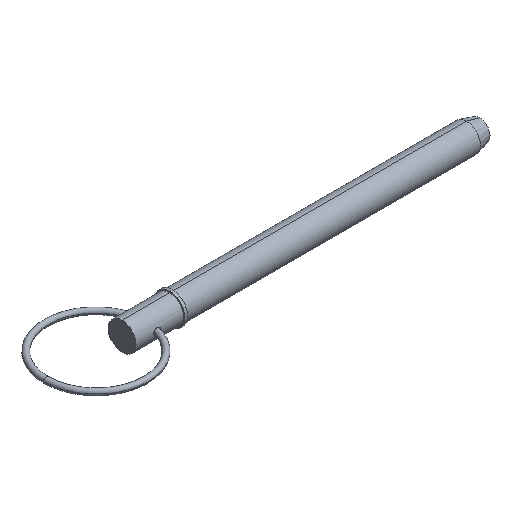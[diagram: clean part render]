
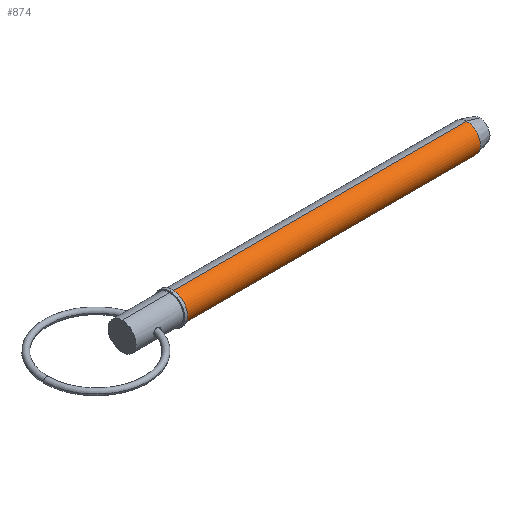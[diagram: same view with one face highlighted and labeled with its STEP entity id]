
A CAD part, isometric view. The second image highlights one B-rep face of the part: STEP entity #874.
In plain terms, the highlighted cylindrical face has radius 7.145 mm (diameter 14.29 mm), a partial arc.
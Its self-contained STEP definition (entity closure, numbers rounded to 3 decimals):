
#50 = DIRECTION ( 'NONE',  ( 1., 0., 0. ) ) ;
#53 = DIRECTION ( 'NONE',  ( 0., 0., -1. ) ) ;
#89 = VERTEX_POINT ( 'NONE', #544 ) ;
#100 = ORIENTED_EDGE ( 'NONE', *, *, #589, .T. ) ;
#150 = FACE_OUTER_BOUND ( 'NONE', #360, .T. ) ;
#198 = EDGE_CURVE ( 'NONE', #835, #432, #856, .T. ) ;
#243 = CYLINDRICAL_SURFACE ( 'NONE', #364, 7.145 ) ;
#277 = VERTEX_POINT ( 'NONE', #806 ) ;
#295 = CIRCLE ( 'NONE', #714, 7.145 ) ;
#342 = ORIENTED_EDGE ( 'NONE', *, *, #479, .F. ) ;
#360 = EDGE_LOOP ( 'NONE', ( #898, #667, #100, #342 ) ) ;
#364 = AXIS2_PLACEMENT_3D ( 'NONE', #796, #494, #484 ) ;
#413 = VECTOR ( 'NONE', #930, 1000. ) ;
#428 = AXIS2_PLACEMENT_3D ( 'NONE', #722, #704, #858 ) ;
#432 = VERTEX_POINT ( 'NONE', #842 ) ;
#457 = LINE ( 'NONE', #611, #413 ) ;
#479 = EDGE_CURVE ( 'NONE', #89, #277, #295, .T. ) ;
#484 = DIRECTION ( 'NONE',  ( 0., 0., -1. ) ) ;
#494 = DIRECTION ( 'NONE',  ( 1., 0., 0. ) ) ;
#544 = CARTESIAN_POINT ( 'NONE',  ( 176.184, 0., 7.145 ) ) ;
#562 = LINE ( 'NONE', #1045, #788 ) ;
#589 = EDGE_CURVE ( 'NONE', #432, #277, #457, .T. ) ;
#611 = CARTESIAN_POINT ( 'NONE',  ( 0., 0., -7.145 ) ) ;
#667 = ORIENTED_EDGE ( 'NONE', *, *, #198, .T. ) ;
#699 = CARTESIAN_POINT ( 'NONE',  ( 176.184, 0., 0. ) ) ;
#704 = DIRECTION ( 'NONE',  ( 1., 0., 0. ) ) ;
#714 = AXIS2_PLACEMENT_3D ( 'NONE', #699, #50, #53 ) ;
#722 = CARTESIAN_POINT ( 'NONE',  ( 25.7, 0., 0. ) ) ;
#736 = EDGE_CURVE ( 'NONE', #835, #89, #562, .T. ) ;
#788 = VECTOR ( 'NONE', #963, 1000. ) ;
#796 = CARTESIAN_POINT ( 'NONE',  ( 0., 0., 0. ) ) ;
#806 = CARTESIAN_POINT ( 'NONE',  ( 176.184, 0., -7.145 ) ) ;
#813 = CARTESIAN_POINT ( 'NONE',  ( 25.7, 0., 7.145 ) ) ;
#835 = VERTEX_POINT ( 'NONE', #813 ) ;
#842 = CARTESIAN_POINT ( 'NONE',  ( 25.7, 0., -7.145 ) ) ;
#856 = CIRCLE ( 'NONE', #428, 7.145 ) ;
#858 = DIRECTION ( 'NONE',  ( 0., 0., -1. ) ) ;
#874 = ADVANCED_FACE ( 'NONE', ( #150 ), #243, .T. ) ;
#898 = ORIENTED_EDGE ( 'NONE', *, *, #736, .F. ) ;
#930 = DIRECTION ( 'NONE',  ( 1., 0., 0. ) ) ;
#963 = DIRECTION ( 'NONE',  ( 1., 0., 0. ) ) ;
#1045 = CARTESIAN_POINT ( 'NONE',  ( 0., 0., 7.145 ) ) ;
